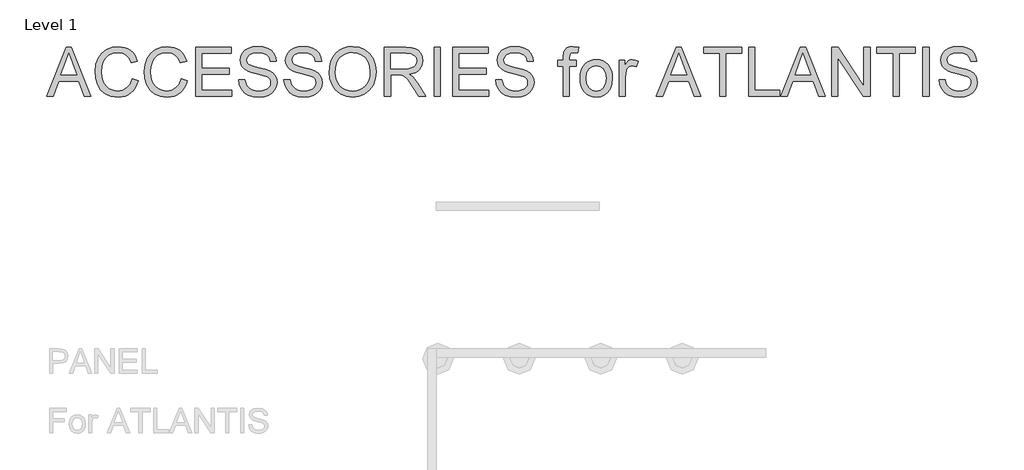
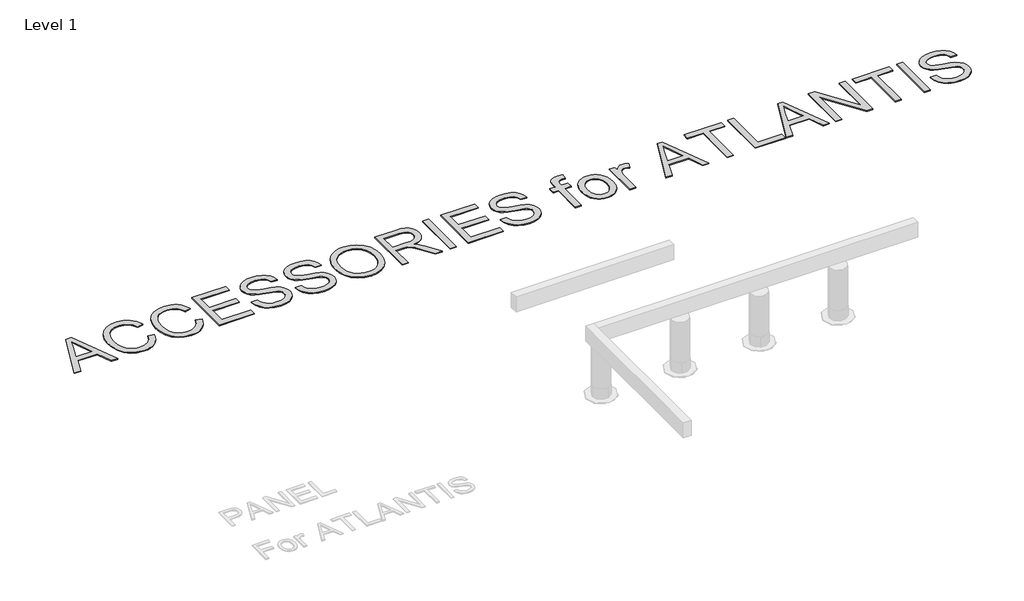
# One storey, part 4 of 6: 1 proxy.
"""IFC4 building model written with IfcOpenShell, lengths in millimetres."""

import ifcopenshell
import ifcopenshell.guid

model = None  # the IFC model being written
_history = None  # IfcOwnerHistory: only IFC2X3 demands one
_inside = {}  # id of a spatial element -> (the spatial element, [elements in it])
_under = {}  # id of a project, library or spatial element -> (it, [spatial elements below it])
_declared = {}  # id of a project -> (the project, [libraries it declares])
_typed = {}  # id of a type object -> (the type object, [elements of that type])
_made_of = {}  # id of a material, layer set ... -> (it, [elements and type objects made of it])


def new_model(schema):
    """Start an empty IFC model of exactly this schema.

    Asked for "IFC4X3", IfcOpenShell would pick the latest addendum, in which some entities
    have other attributes; the version numbers below select the first issue.
    IFC2X3 requires an IfcOwnerHistory on every rooted entity: one is made here for all.
    """
    global model, _history
    if schema == "IFC4X3":
        model = ifcopenshell.file(schema_version=(4, 3, 0, 0))
    else:
        model = ifcopenshell.file(schema=schema)
    _inside.clear()
    _under.clear()
    _declared.clear()
    _typed.clear()
    _made_of.clear()
    _history = None
    if model.schema == "IFC2X3":
        org = make("IfcOrganization", Name="unknown")
        user = make(
            "IfcPersonAndOrganization",
            ThePerson=make("IfcPerson", FamilyName="unknown"),
            TheOrganization=org,
        )
        app = make(
            "IfcApplication",
            ApplicationDeveloper=org,
            Version="unknown",
            ApplicationFullName="unknown",
            ApplicationIdentifier="unknown",
        )
        _history = make(
            "IfcOwnerHistory",
            OwningUser=user,
            OwningApplication=app,
            ChangeAction="ADDED",
            CreationDate=0,
        )
    return model


def make(cls, **values):
    """One entity of the class cls with the attributes given. An attribute that is None is left unset."""
    return model.create_entity(
        cls, **{name: value for name, value in values.items() if value is not None}
    )


def rooted(cls, **values):
    """An entity with a GlobalId (a new one), such as an element, a storey or a relation."""
    return make(cls, GlobalId=ifcopenshell.guid.new(), OwnerHistory=_history, **values)


def si_unit(unit_type, name, prefix=None):
    """IfcSIUnit, for example si_unit("LENGTHUNIT", "METRE", prefix="MILLI")."""
    return make("IfcSIUnit", UnitType=unit_type, Prefix=prefix, Name=name)


def assignment(units):
    """IfcUnitAssignment: the units of a project."""
    return None if units is None else make("IfcUnitAssignment", Units=units)


def point(xyz):
    """IfcCartesianPoint."""
    return None if xyz is None else make("IfcCartesianPoint", Coordinates=xyz)


def direction(xyz):
    """IfcDirection."""
    return None if xyz is None else make("IfcDirection", DirectionRatios=xyz)


def frame(location, z_axis=None, x_axis=None):
    """IfcAxis2Placement3D, a coordinate frame: its origin and axes. An axis left out is left unset."""
    return make(
        "IfcAxis2Placement3D",
        Location=point(location),
        Axis=direction(z_axis),
        RefDirection=direction(x_axis),
    )


def origin():
    """The frame at (0, 0, 0) with its axes left unset."""
    return frame((0.0, 0.0, 0.0))


def origin_with_axes():
    """The frame at (0, 0, 0) with the z axis (0, 0, 1) and the x axis (1, 0, 0) written out."""
    return frame((0.0, 0.0, 0.0), z_axis=(0.0, 0.0, 1.0), x_axis=(1.0, 0.0, 0.0))


def place(relative_to, where):
    """IfcLocalPlacement: puts the frame where relative to a parent placement (None: the world)."""
    return make(
        "IfcLocalPlacement", PlacementRelTo=relative_to, RelativePlacement=where
    )


def context(
    kind, dimensions, precision=None, world=None, true_north=None, identifier=None
):
    """IfcGeometricRepresentationContext, for example the 3D "Model" context."""
    return make(
        "IfcGeometricRepresentationContext",
        ContextIdentifier=identifier,
        ContextType=kind,
        CoordinateSpaceDimension=dimensions,
        Precision=precision,
        WorldCoordinateSystem=world,
        TrueNorth=true_north,
    )


def project(units=None, contexts=None):
    """IfcProject with its units and contexts."""
    return rooted(
        "IfcProject",
        Name="project",
        RepresentationContexts=contexts,
        UnitsInContext=assignment(units),
    )


def spatial(cls, under=None, at=None, **own):
    """A site, building, storey or space (cls), placed at a placement, below another one or the project."""
    s = rooted(cls, ObjectPlacement=at, **own)
    if under is not None:
        _under.setdefault(under.id(), (under, []))[1].append(s)
    return s


def polyline(points):
    """IfcPolyline through the points."""
    return make("IfcPolyline", Points=[point(p) for p in points])


def outline(outer, holes=None, kind="AREA"):
    """IfcArbitraryClosedProfileDef: a profile drawn as a closed curve; with holes, ...WithVoids."""
    if holes is None:
        return make("IfcArbitraryClosedProfileDef", ProfileType=kind, OuterCurve=outer)
    return make(
        "IfcArbitraryProfileDefWithVoids",
        ProfileType=kind,
        OuterCurve=outer,
        InnerCurves=holes,
    )


def extrude(swept, where, along, depth):
    """IfcExtrudedAreaSolid: the profile swept, set in the frame where, extruded along a direction by depth."""
    return make(
        "IfcExtrudedAreaSolid",
        SweptArea=swept,
        Position=where,
        ExtrudedDirection=direction(along),
        Depth=depth,
    )


def shape(context_of_items, identifier, shape_type, items):
    """IfcShapeRepresentation: the items that make up one representation, for example the "Body"."""
    return make(
        "IfcShapeRepresentation",
        ContextOfItems=context_of_items,
        RepresentationIdentifier=identifier,
        RepresentationType=shape_type,
        Items=items,
    )


def made_of(thing, what):
    """Note that an element or type object is made of a material, layer set ...; save() writes the relation."""
    if what is not None:
        _made_of.setdefault(what.id(), (what, []))[1].append(thing)
    return thing


def element(
    cls,
    number,
    at=None,
    inside=None,
    cuts=None,
    type_object=None,
    material=None,
    context=None,
    identifier="Body",
    shape_type=None,
    held_by="IfcProductDefinitionShape",
    body=None,
    shapes=None,
    **own,
):
    """One element of the class cls, such as IfcWall. Its Tag is "e" and its number.

    at: its placement. inside: the storey or other place that contains it. cuts: it is an
    opening in that element (IfcRelVoidsElement). A single representation is given by context,
    identifier, shape_type and body (its items); several are given by shapes. held_by: the class
    of the entity that holds the representations. save() writes the other relations.
    """
    e = rooted(cls, Tag="e%d" % number, ObjectPlacement=at, **own)
    if body is not None:
        shapes = [shape(context, identifier, shape_type, body)]
    if shapes is not None:
        e.Representation = make(held_by, Representations=shapes)
    if inside is not None:
        _inside.setdefault(inside.id(), (inside, []))[1].append(e)
    if cuts is not None:
        rooted(
            "IfcRelVoidsElement", RelatingBuildingElement=cuts, RelatedOpeningElement=e
        )
    if type_object is not None:
        _typed.setdefault(type_object.id(), (type_object, []))[1].append(e)
    return made_of(e, material)


def aggregate(whole, parts):
    """IfcRelAggregates: a whole, such as a stair, and the parts it consists of."""
    return rooted("IfcRelAggregates", RelatingObject=whole, RelatedObjects=parts)


def save(model, path):
    """Write the relations noted so far, then the file.

    IfcRelAggregates (storeys below a building ...), IfcRelContainedInSpatialStructure (elements
    in a storey), IfcRelDefinesByType, IfcRelAssociatesMaterial and IfcRelDeclares: one each for
    every whole, place, type object, material and project.
    """
    for whole, parts in _under.values():
        aggregate(whole, parts)
    for where, things in _inside.values():
        rooted(
            "IfcRelContainedInSpatialStructure",
            RelatedElements=things,
            RelatingStructure=where,
        )
    for kind, things in _typed.values():
        rooted("IfcRelDefinesByType", RelatedObjects=things, RelatingType=kind)
    for what, things in _made_of.values():
        rooted("IfcRelAssociatesMaterial", RelatedObjects=things, RelatingMaterial=what)
    for by, libraries in _declared.values():
        rooted("IfcRelDeclares", RelatingContext=by, RelatedDefinitions=libraries)
    model.write(path)


model = new_model("IFC4")

# Units and contexts
model_context = context("Model", 3, world=origin())
ifc_project = project(units=[si_unit("LENGTHUNIT", "METRE", prefix="MILLI")], contexts=[model_context])

# Site, building, storey
site = spatial("IfcSite", under=ifc_project)
building = spatial("IfcBuilding", under=site)
storey = spatial("IfcBuildingStorey", under=building, Name="Level 1", Elevation=0.0)

# Proxy
placement = place(None, origin())
element("IfcBuildingElementProxy", 1, Name="300mm Arial", ObjectType="300mm Arial", at=placement, inside=storey, context=model_context, shape_type="SweptSolid", body=[
    extrude(outline(polyline([(-10501.6403334, 106.1819692), (-10381.342921, 407.5508997), (-10349.263611, 407.5508997), (-10228.9661986, 106.1819692), (-10268.7710305, 106.1819692), (-10303.2783616, 200.35976), (-10427.4017468, 200.35976), (-10461.8355016, 106.1819692), (-10501.6403334, 106.1819692)]), holes=[polyline([(-10413.5693838, 238.0308763), (-10317.0371483, 238.0308763), (-10344.1868395, 312.1223101), (-10365.303266, 369.8797834), (-10384.0652478, 318.5970332), (-10413.5693838, 238.0308763)])]), origin_with_axes(), (0.0, 0.0, 1.0), 5.0),
    extrude(outline(polyline([(-9976.8198791, 213.3092062), (-9939.1487628, 203.5971215), (-9946.6029717, 180.1699362), (-9956.5311871, 159.6996025), (-9968.9334089, 142.1861202), (-9983.809637, 127.6294895), (-10000.8241793, 116.1860602), (-10019.6413434, 108.0121822), (-10040.2611292, 103.1078553), (-10062.6835368, 101.4730797), (-10106.3787208, 106.4210925), (-10141.07919, 121.265131), (-10167.6770582, 145.4901604), (-10187.0644394, 178.5811459), (-10198.9010426, 217.4846669), (-10202.846577, 259.1473028), (-10198.3860078, 303.0908071), (-10185.0043002, 341.0378349), (-10163.40043, 371.7835727), (-10134.2733731, 394.1232068), (-10099.7292537, 407.7256436), (-10061.8741964, 412.2597892), (-10020.5702454, 406.3920714), (-10002.6015092, 399.0574241), (-9986.4215992, 388.7889179), (-9972.2972298, 375.8578658), (-9960.4951156, 360.5355807), (-9943.8576524, 322.7173116), (-9981.5287687, 313.7409909), (-9994.5885795, 341.2125789), (-10012.4308563, 360.0573341), (-10035.2763282, 370.9558382), (-10063.3457244, 374.5886729), (-10095.7009459, 370.5603651), (-10122.28042, 358.4754415), (-10142.4495504, 339.6030952), (-10155.5737406, 315.2125189), (-10162.7750306, 287.6397633), (-10165.1754607, 259.2208792), (-10162.3335722, 224.4192425), (-10153.807907, 194.3264953), (-10139.2765682, 170.0922688), (-10118.4176591, 152.8661944), (-10093.4108804, 142.5746956), (-10066.4359332, 139.144196), (-10034.9912196, 143.8162973), (-10008.7888245, 157.8326013), (-9989.0059702, 181.0459552), (-9976.8198791, 213.3092062)])), origin_with_axes(), (0.0, 0.0, 1.0), 5.0),
    extrude(outline(polyline([(-9675.4509487, 213.3092062), (-9637.7798324, 203.5971215), (-9645.2340413, 180.1699362), (-9655.1622566, 159.6996025), (-9667.5644784, 142.1861202), (-9682.4407066, 127.6294895), (-9699.4552489, 116.1860602), (-9718.2724129, 108.0121822), (-9738.8921987, 103.1078553), (-9761.3146064, 101.4730797), (-9805.0097903, 106.4210925), (-9839.7102595, 121.265131), (-9866.3081278, 145.4901604), (-9885.6955089, 178.5811459), (-9897.5321121, 217.4846669), (-9901.4776465, 259.1473028), (-9897.0170773, 303.0908071), (-9883.6353697, 341.0378349), (-9862.0314996, 371.7835727), (-9832.9044426, 394.1232068), (-9798.3603233, 407.7256436), (-9760.505266, 412.2597892), (-9719.201315, 406.3920714), (-9701.2325788, 399.0574241), (-9685.0526688, 388.7889179), (-9670.9282994, 375.8578658), (-9659.1261851, 360.5355807), (-9642.4887219, 322.7173116), (-9680.1598382, 313.7409909), (-9693.219649, 341.2125789), (-9711.0619258, 360.0573341), (-9733.9073977, 370.9558382), (-9761.9767939, 374.5886729), (-9794.3320154, 370.5603651), (-9820.9114896, 358.4754415), (-9841.08062, 339.6030952), (-9854.2048101, 315.2125189), (-9861.4061002, 287.6397633), (-9863.8065302, 259.2208792), (-9860.9646418, 224.4192425), (-9852.4389766, 194.3264953), (-9837.9076377, 170.0922688), (-9817.0487286, 152.8661944), (-9792.04195, 142.5746956), (-9765.0670027, 139.144196), (-9733.6222892, 143.8162973), (-9707.4198941, 157.8326013), (-9687.6370398, 181.0459552), (-9675.4509487, 213.3092062)])), origin_with_axes(), (0.0, 0.0, 1.0), 5.0),
    extrude(outline(polyline([(-9585.9820474, 106.1819692), (-9585.9820474, 407.5508997), (-9369.3731287, 407.5508997), (-9369.3731287, 369.8797834), (-9548.3109311, 369.8797834), (-9548.3109311, 280.4108821), (-9378.7909078, 280.4108821), (-9378.7909078, 242.7397658), (-9548.3109311, 242.7397658), (-9548.3109311, 143.8530855), (-9364.6642392, 143.8530855), (-9364.6642392, 106.1819692), (-9585.9820474, 106.1819692)])), origin_with_axes(), (0.0, 0.0, 1.0), 5.0),
    extrude(outline(polyline([(-9322.2842333, 209.7775391), (-9284.613117, 209.7775391), (-9280.2905036, 188.8726447), (-9272.4730112, 172.0696346), (-9260.277723, 158.7339122), (-9242.8217223, 148.2308813), (-9221.4845666, 141.4158673), (-9197.6458133, 139.144196), (-9176.6581455, 140.8640443), (-9158.2824399, 146.0235893), (-9143.3924161, 154.1905696), (-9132.861794, 164.9327239), (-9126.598603, 177.2659677), (-9124.5108727, 190.2062169), (-9126.0743712, 202.8153723), (-9130.7648666, 213.7138764), (-9140.2930103, 223.0120938), (-9156.3694535, 230.8203892), (-9211.220659, 245.2045752), (-9247.2271092, 254.7235218), (-9270.2657192, 263.782616), (-9289.0185039, 276.4561507), (-9302.308241, 291.815224), (-9310.2269009, 309.5287421), (-9312.8664542, 329.2656111), (-9309.6015015, 351.3293338), (-9299.8066434, 371.9031343), (-9283.7393973, 389.3407409), (-9261.6572805, 401.9958815), (-9235.1513827, 409.6938123), (-9205.8127936, 412.2597892), (-9174.0277893, 409.5742506), (-9146.2159104, 401.517635), (-9123.3704385, 388.255489), (-9106.4846549, 369.9533598), (-9095.797683, 347.7516814), (-9091.5486459, 322.790888), (-9129.2197622, 322.790888), (-9136.1359437, 345.2684779), (-9150.556918, 361.4920739), (-9173.0896902, 371.3145231), (-9204.3412657, 374.5886729), (-9236.3286051, 371.3513113), (-9258.2727661, 361.6392267), (-9270.964695, 347.3470112), (-9275.1953379, 330.3692571), (-9272.1970997, 315.8931006), (-9263.2023849, 304.2496354), (-9241.9388056, 293.838575), (-9201.6925153, 283.2067853), (-9160.158638, 273.1084245), (-9135.0322978, 264.2976508), (-9113.5571863, 250.6308346), (-9098.575192, 233.7634452), (-9089.7736153, 213.8794233), (-9086.8397564, 191.1627101), (-9090.2150737, 167.9401592), (-9100.3410256, 146.0971657), (-9116.8037449, 127.2983957), (-9139.1893643, 113.2085153), (-9166.1091293, 104.4069386), (-9196.1742854, 101.4730797), (-9233.0820465, 104.6368648), (-9263.4599023, 114.1282203), (-9287.6573405, 129.9839343), (-9306.0238491, 152.240795), (-9317.8144671, 179.3536981), (-9322.2842333, 209.7775391)])), origin_with_axes(), (0.0, 0.0, 1.0), 5.0),
    extrude(outline(polyline([(-9044.4597505, 209.7775391), (-9006.7886342, 209.7775391), (-9002.4660208, 188.8726447), (-8994.6485284, 172.0696346), (-8982.4532403, 158.7339122), (-8964.9972396, 148.2308813), (-8943.6600839, 141.4158673), (-8919.8213306, 139.144196), (-8898.8336628, 140.8640443), (-8880.4579571, 146.0235893), (-8865.5679333, 154.1905696), (-8855.0373112, 164.9327239), (-8848.7741203, 177.2659677), (-8846.6863899, 190.2062169), (-8848.2498884, 202.8153723), (-8852.9403839, 213.7138764), (-8862.4685275, 223.0120938), (-8878.5449707, 230.8203892), (-8933.3961762, 245.2045752), (-8969.4026265, 254.7235218), (-8992.4412364, 263.782616), (-9011.1940211, 276.4561507), (-9024.4837582, 291.815224), (-9032.4024182, 309.5287421), (-9035.0419715, 329.2656111), (-9031.7770188, 351.3293338), (-9021.9821606, 371.9031343), (-9005.9149145, 389.3407409), (-8983.8327977, 401.9958815), (-8957.3269, 409.6938123), (-8927.9883109, 412.2597892), (-8896.2033065, 409.5742506), (-8868.3914277, 401.517635), (-8845.5459558, 388.255489), (-8828.6601722, 369.9533598), (-8817.9732002, 347.7516814), (-8813.7241632, 322.790888), (-8851.3952795, 322.790888), (-8858.311461, 345.2684779), (-8872.7324352, 361.4920739), (-8895.2652074, 371.3145231), (-8926.5167829, 374.5886729), (-8958.5041224, 371.3513113), (-8980.4482834, 361.6392267), (-8993.1402122, 347.3470112), (-8997.3708552, 330.3692571), (-8994.3726169, 315.8931006), (-8985.3779021, 304.2496354), (-8964.1143228, 293.838575), (-8923.8680325, 283.2067853), (-8882.3341553, 273.1084245), (-8857.207815, 264.2976508), (-8835.7327035, 250.6308346), (-8820.7507093, 233.7634452), (-8811.9491325, 213.8794233), (-8809.0152736, 191.1627101), (-8812.3905909, 167.9401592), (-8822.5165429, 146.0971657), (-8838.9792621, 127.2983957), (-8861.3648815, 113.2085153), (-8888.2846465, 104.4069386), (-8918.3498026, 101.4730797), (-8955.2575638, 104.6368648), (-8985.6354195, 114.1282203), (-9009.8328578, 129.9839343), (-9028.1993664, 152.240795), (-9039.9899843, 179.3536981), (-9044.4597505, 209.7775391)])), origin_with_axes(), (0.0, 0.0, 1.0), 5.0),
    extrude(outline(polyline([(-8766.6352678, 252.8933089), (-8764.1244732, 288.2421701), (-8756.5920893, 319.5351323), (-8744.0381162, 346.7721955), (-8726.4625539, 369.9533598), (-8704.9184646, 388.4624226), (-8680.4589104, 401.6831818), (-8653.0838915, 409.6156374), (-8622.7934077, 412.2597892), (-8583.2644873, 407.2933823), (-8547.8190571, 392.3941615), (-8518.3884974, 368.6105905), (-8496.9041889, 336.991133), (-8483.7708017, 299.0624993), (-8479.393006, 256.3513997), (-8484.0007279, 213.0700829), (-8497.8238939, 174.6080203), (-8520.0991487, 142.9333805), (-8550.0631372, 120.0143322), (-8585.2050648, 106.1083928), (-8623.0141369, 101.4730797), (-8663.1500625, 106.5958365), (-8698.7978279, 121.9641068), (-8728.1548111, 146.1891362), (-8749.4183904, 177.8821701), (-8762.3310484, 214.3484729), (-8766.6352678, 252.8933089)]), holes=[polyline([(-8728.9641515, 252.5254269), (-8727.0810555, 227.550838), (-8721.4317676, 205.3813492), (-8712.0162878, 186.0169607), (-8698.8346161, 169.4576724), (-8682.8110559, 156.1955265), (-8664.8699109, 146.7225651), (-8645.0111809, 141.0387883), (-8623.2348661, 139.144196), (-8601.0860707, 141.0571824), (-8580.992816, 146.7961415), (-8562.9551019, 156.3610734), (-8546.9729285, 169.751978), (-8533.8878258, 186.6607542), (-8524.5413238, 206.7793008), (-8518.9334227, 230.1076178), (-8517.0641223, 256.6457053), (-8520.2646956, 289.9942081), (-8529.8664157, 318.8177624), (-8545.6209621, 342.3898013), (-8567.2800146, 359.9837577), (-8593.4088333, 370.9374441), (-8622.5726785, 374.5886729), (-8643.592536, 372.8297371), (-8663.0948802, 367.5529297), (-8681.0797113, 358.7582508), (-8697.5470291, 346.4457003), (-8711.2920201, 330.0220685), (-8721.1098709, 308.8941456), (-8727.0005813, 283.0619318), (-8728.9641515, 252.5254269)])]), origin_with_axes(), (0.0, 0.0, 1.0), 5.0),
    extrude(outline(polyline([(-8427.595221, 106.1819692), (-8427.595221, 407.5508997), (-8297.7328767, 407.5508997), (-8262.8300724, 405.5183516), (-8237.4370177, 399.4207076), (-8218.8773711, 388.1635185), (-8204.474791, 370.6523356), (-8195.2317558, 348.9381008), (-8192.1507441, 325.0717564), (-8197.2551068, 295.3836793), (-8212.5681949, 270.7723739), (-8224.167974, 260.742991), (-8238.5498608, 252.727762), (-8275.659957, 242.7397658), (-8254.2492249, 226.6265344), (-8223.7150193, 187.8517722), (-8173.4623388, 106.1819692), (-8217.2402962, 106.1819692), (-8256.4565169, 168.648332), (-8284.7834305, 209.9982683), (-8304.6858464, 229.5328022), (-8322.6016996, 236.7065011), (-8344.4538901, 238.0308763), (-8389.9241047, 238.0308763), (-8389.9241047, 106.1819692), (-8427.595221, 106.1819692)]), holes=[polyline([(-8389.9241047, 275.7019926), (-8305.6055514, 275.7019926), (-8281.3897191, 277.0355648), (-8262.6001462, 281.0362815), (-8248.4550835, 287.9708571), (-8238.1727817, 298.1060061), (-8231.9095908, 310.3656736), (-8229.8218604, 323.6738048), (-8233.804183, 342.0495104), (-8245.7511508, 356.8567607), (-8266.3065573, 366.6240277), (-8296.114196, 369.8797834), (-8389.9241047, 369.8797834), (-8389.9241047, 275.7019926)])]), origin_with_axes(), (0.0, 0.0, 1.0), 5.0),
    extrude(outline(polyline([(-8121.517401, 106.1819692), (-8121.517401, 407.5508997), (-8083.8462847, 407.5508997), (-8083.8462847, 106.1819692), (-8121.517401, 106.1819692)])), origin_with_axes(), (0.0, 0.0, 1.0), 5.0),
    extrude(outline(polyline([(-8008.5040521, 106.1819692), (-8008.5040521, 407.5508997), (-7791.8951334, 407.5508997), (-7791.8951334, 369.8797834), (-7970.8329358, 369.8797834), (-7970.8329358, 280.4108821), (-7801.3129124, 280.4108821), (-7801.3129124, 242.7397658), (-7970.8329358, 242.7397658), (-7970.8329358, 143.8530855), (-7787.1862438, 143.8530855), (-7787.1862438, 106.1819692), (-8008.5040521, 106.1819692)])), origin_with_axes(), (0.0, 0.0, 1.0), 5.0),
    extrude(outline(polyline([(-7744.806238, 209.7775391), (-7707.1351217, 209.7775391), (-7702.8125082, 188.8726447), (-7694.9950158, 172.0696346), (-7682.7997277, 158.7339122), (-7665.343727, 148.2308813), (-7644.0065713, 141.4158673), (-7620.167818, 139.144196), (-7599.1801502, 140.8640443), (-7580.8044445, 146.0235893), (-7565.9144208, 154.1905696), (-7555.3837987, 164.9327239), (-7549.1206077, 177.2659677), (-7547.0328774, 190.2062169), (-7548.5963759, 202.8153723), (-7553.2868713, 213.7138764), (-7562.815015, 223.0120938), (-7578.8914582, 230.8203892), (-7633.7426636, 245.2045752), (-7669.7491139, 254.7235218), (-7692.7877239, 263.782616), (-7711.5405086, 276.4561507), (-7724.8302457, 291.815224), (-7732.7489056, 309.5287421), (-7735.3884589, 329.2656111), (-7732.1235062, 351.3293338), (-7722.3286481, 371.9031343), (-7706.2614019, 389.3407409), (-7684.1792852, 401.9958815), (-7657.6733874, 409.6938123), (-7628.3347983, 412.2597892), (-7596.5497939, 409.5742506), (-7568.7379151, 401.517635), (-7545.8924432, 388.255489), (-7529.0066596, 369.9533598), (-7518.3196877, 347.7516814), (-7514.0706506, 322.790888), (-7551.7417669, 322.790888), (-7558.6579484, 345.2684779), (-7573.0789226, 361.4920739), (-7595.6116948, 371.3145231), (-7626.8632703, 374.5886729), (-7658.8506098, 371.3513113), (-7680.7947708, 361.6392267), (-7693.4866997, 347.3470112), (-7697.7173426, 330.3692571), (-7694.7191043, 315.8931006), (-7685.7243896, 304.2496354), (-7664.4608102, 293.838575), (-7624.21452, 283.2067853), (-7582.6806427, 273.1084245), (-7557.5543024, 264.2976508), (-7536.079191, 250.6308346), (-7521.0971967, 233.7634452), (-7512.29562, 213.8794233), (-7509.3617611, 191.1627101), (-7512.7370784, 167.9401592), (-7522.8630303, 146.0971657), (-7539.3257496, 127.2983957), (-7561.711369, 113.2085153), (-7588.631134, 104.4069386), (-7618.69629, 101.4730797), (-7655.6040512, 104.6368648), (-7685.981907, 114.1282203), (-7710.1793452, 129.9839343), (-7728.5458538, 152.240795), (-7740.3364717, 179.3536981), (-7744.806238, 209.7775391)])), origin_with_axes(), (0.0, 0.0, 1.0), 5.0),
    extrude(outline(polyline([(-7330.4239586, 106.1819692), (-7330.4239586, 289.8286612), (-7363.3861854, 289.8286612), (-7363.3861854, 327.4997775), (-7330.4239586, 327.4997775), (-7330.4239586, 349.7934264), (-7326.4508331, 381.2105488), (-7318.872464, 393.7369308), (-7307.1738165, 403.6513505), (-7290.8030677, 410.1076795), (-7269.2083946, 412.2597892), (-7234.8482163, 408.1395109), (-7240.3664462, 372.8228393), (-7262.0714839, 374.5886729), (-7276.3912906, 373.0251744), (-7285.7998726, 368.334679), (-7291.0145999, 359.3767524), (-7292.7528423, 345.0109605), (-7292.7528423, 327.4997775), (-7250.3728365, 327.4997775), (-7250.3728365, 289.8286612), (-7292.7528423, 289.8286612), (-7292.7528423, 106.1819692), (-7330.4239586, 106.1819692)])), origin_with_axes(), (0.0, 0.0, 1.0), 5.0),
    extrude(outline(polyline([(-7226.8283888, 216.8408734), (-7224.7912422, 245.5034793), (-7218.6798026, 270.2021568), (-7208.4940698, 290.9369057), (-7194.234044, 307.7077262), (-7179.8774491, 318.4268878), (-7164.0309322, 326.0834318), (-7146.6944932, 330.6773583), (-7127.8681321, 332.2086671), (-7107.0850986, 330.3439652), (-7088.2932264, 324.7498596), (-7071.4925156, 315.4263503), (-7056.682966, 302.3734373), (-7044.5957432, 286.0325789), (-7035.9620126, 266.8452336), (-7030.7817743, 244.8114013), (-7029.0550282, 219.9310821), (-7032.1084487, 181.8736897), (-7041.2687104, 152.9029826), (-7056.2690988, 131.2071419), (-7076.8428993, 114.9743489), (-7101.2794609, 104.848397), (-7127.8681321, 101.4730797), (-7148.9546682, 103.3308838), (-7167.9212843, 108.904296), (-7184.7679804, 118.1933164), (-7199.4947565, 131.1979449), (-7211.4532206, 147.6974524), (-7219.9949807, 167.4711096), (-7225.1200368, 190.5189166), (-7226.8283888, 216.8408734)]), holes=[polyline([(-7189.1572725, 216.9144498), (-7184.7978708, 182.8209859), (-7171.7196659, 158.5315771), (-7152.0379792, 143.9910413), (-7127.8681321, 139.144196), (-7103.8086496, 144.0186324), (-7084.1637511, 158.6419417), (-7071.0855461, 183.2532472), (-7066.7261445, 218.0916722), (-7071.1131373, 251.1918547), (-7084.2741156, 275.1501696), (-7103.9466053, 289.6907055), (-7127.8681321, 294.5375508), (-7152.0379792, 289.7090996), (-7171.7196659, 275.223746), (-7184.7978708, 250.9895196), (-7189.1572725, 216.9144498)])]), origin_with_axes(), (0.0, 0.0, 1.0), 5.0),
    extrude(outline(polyline([(-6986.6750223, 106.1819692), (-6986.6750223, 327.4997775), (-6953.7127956, 327.4997775), (-6953.7127956, 294.75828), (-6941.5359015, 313.7409909), (-6930.3155007, 324.9246036), (-6919.0583116, 330.3876512), (-6906.771053, 332.2086671), (-6888.0090712, 329.3023993), (-6868.9527839, 320.583596), (-6881.5343481, 286.8120289), (-6894.7780999, 292.6061703), (-6908.0218518, 294.5375508), (-6919.2698438, 292.6797467), (-6929.3222193, 287.1063345), (-6937.4432143, 278.2403784), (-6942.8970649, 266.5049427), (-6947.4771957, 245.4620926), (-6949.003906, 222.5062561), (-6949.003906, 106.1819692), (-6986.6750223, 106.1819692)])), origin_with_axes(), (0.0, 0.0, 1.0), 5.0),
    extrude(outline(polyline([(-6758.0731505, 106.1819692), (-6637.7757381, 407.5508997), (-6605.6964281, 407.5508997), (-6485.3990157, 106.1819692), (-6525.2038476, 106.1819692), (-6559.7111787, 200.35976), (-6683.8345639, 200.35976), (-6718.2683186, 106.1819692), (-6758.0731505, 106.1819692)]), holes=[polyline([(-6670.0022009, 238.0308763), (-6573.4699653, 238.0308763), (-6600.6196566, 312.1223101), (-6621.7360831, 369.8797834), (-6640.4980649, 318.5970332), (-6670.0022009, 238.0308763)])]), origin_with_axes(), (0.0, 0.0, 1.0), 5.0),
    extrude(outline(polyline([(-6369.8104928, 106.1819692), (-6369.8104928, 369.8797834), (-6468.6971731, 369.8797834), (-6468.6971731, 407.5508997), (-6233.2526962, 407.5508997), (-6233.2526962, 369.8797834), (-6332.1393765, 369.8797834), (-6332.1393765, 106.1819692), (-6369.8104928, 106.1819692)])), origin_with_axes(), (0.0, 0.0, 1.0), 5.0),
    extrude(outline(polyline([(-6190.8726904, 106.1819692), (-6190.8726904, 407.5508997), (-6153.2015741, 407.5508997), (-6153.2015741, 143.8530855), (-6002.5171088, 143.8530855), (-6002.5171088, 106.1819692), (-6190.8726904, 106.1819692)])), origin_with_axes(), (0.0, 0.0, 1.0), 5.0),
    extrude(outline(polyline([(-5995.2330453, 106.1819692), (-5874.9356329, 407.5508997), (-5842.8563229, 407.5508997), (-5722.5589105, 106.1819692), (-5762.3637424, 106.1819692), (-5796.8710735, 200.35976), (-5920.9944587, 200.35976), (-5955.4282134, 106.1819692), (-5995.2330453, 106.1819692)]), holes=[polyline([(-5907.1620957, 238.0308763), (-5810.6298601, 238.0308763), (-5837.7795514, 312.1223101), (-5858.8959779, 369.8797834), (-5877.6579597, 318.5970332), (-5907.1620957, 238.0308763)])]), origin_with_axes(), (0.0, 0.0, 1.0), 5.0),
    extrude(outline(polyline([(-5682.3126202, 106.1819692), (-5682.3126202, 407.5508997), (-5641.9927536, 407.5508997), (-5484.5392596, 168.7954848), (-5484.5392596, 407.5508997), (-5446.8681433, 407.5508997), (-5446.8681433, 106.1819692), (-5487.18801, 106.1819692), (-5644.6415039, 345.0109605), (-5644.6415039, 106.1819692), (-5682.3126202, 106.1819692)])), origin_with_axes(), (0.0, 0.0, 1.0), 5.0),
    extrude(outline(polyline([(-5305.6014572, 106.1819692), (-5305.6014572, 369.8797834), (-5404.4881375, 369.8797834), (-5404.4881375, 407.5508997), (-5169.0436606, 407.5508997), (-5169.0436606, 369.8797834), (-5267.9303409, 369.8797834), (-5267.9303409, 106.1819692), (-5305.6014572, 106.1819692)])), origin_with_axes(), (0.0, 0.0, 1.0), 5.0),
    extrude(outline(polyline([(-5121.9547652, 106.1819692), (-5121.9547652, 407.5508997), (-5084.2836489, 407.5508997), (-5084.2836489, 106.1819692), (-5121.9547652, 106.1819692)])), origin_with_axes(), (0.0, 0.0, 1.0), 5.0),
    extrude(outline(polyline([(-5023.0680849, 209.7775391), (-4985.3969686, 209.7775391), (-4981.0743551, 188.8726447), (-4973.2568627, 172.0696346), (-4961.0615746, 158.7339122), (-4943.6055739, 148.2308813), (-4922.2684182, 141.4158673), (-4898.4296649, 139.144196), (-4877.4419971, 140.8640443), (-4859.0662914, 146.0235893), (-4844.1762677, 154.1905696), (-4833.6456456, 164.9327239), (-4827.3824546, 177.2659677), (-4825.2947243, 190.2062169), (-4826.8582227, 202.8153723), (-4831.5487182, 213.7138764), (-4841.0768619, 223.0120938), (-4857.153305, 230.8203892), (-4912.0045105, 245.2045752), (-4948.0109608, 254.7235218), (-4971.0495708, 263.782616), (-4989.8023555, 276.4561507), (-5003.0920925, 291.815224), (-5011.0107525, 309.5287421), (-5013.6503058, 329.2656111), (-5010.3853531, 351.3293338), (-5000.590495, 371.9031343), (-4984.5232488, 389.3407409), (-4962.4411321, 401.9958815), (-4935.9352343, 409.6938123), (-4906.5966452, 412.2597892), (-4874.8116408, 409.5742506), (-4846.999762, 401.517635), (-4824.1542901, 388.255489), (-4807.2685065, 369.9533598), (-4796.5815345, 347.7516814), (-4792.3324975, 322.790888), (-4830.0036138, 322.790888), (-4836.9197953, 345.2684779), (-4851.3407695, 361.4920739), (-4873.8735417, 371.3145231), (-4905.1251172, 374.5886729), (-4937.1124567, 371.3513113), (-4959.0566177, 361.6392267), (-4971.7485465, 347.3470112), (-4975.9791895, 330.3692571), (-4972.9809512, 315.8931006), (-4963.9862364, 304.2496354), (-4942.7226571, 293.838575), (-4902.4763669, 283.2067853), (-4860.9424896, 273.1084245), (-4835.8161493, 264.2976508), (-4814.3410379, 250.6308346), (-4799.3590436, 233.7634452), (-4790.5574669, 213.8794233), (-4787.623608, 191.1627101), (-4790.9989253, 167.9401592), (-4801.1248772, 146.0971657), (-4817.5875965, 127.2983957), (-4839.9732159, 113.2085153), (-4866.8929809, 104.4069386), (-4896.9581369, 101.4730797), (-4933.8658981, 104.6368648), (-4964.2437538, 114.1282203), (-4988.4411921, 129.9839343), (-5006.8077007, 152.240795), (-5018.5983186, 179.3536981), (-5023.0680849, 209.7775391)])), origin_with_axes(), (0.0, 0.0, 1.0), 5.0),
])

save(model, "model.ifc")
